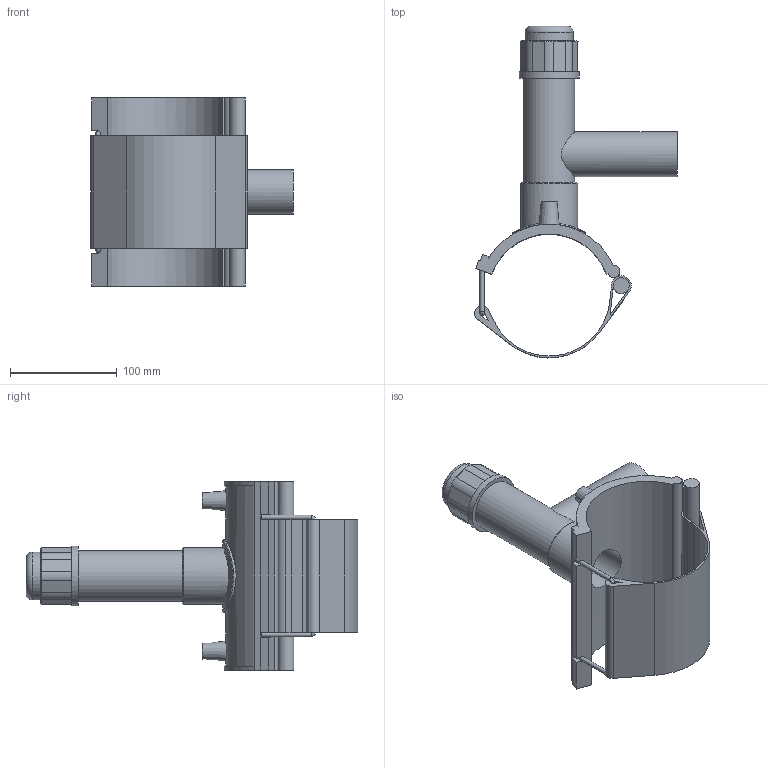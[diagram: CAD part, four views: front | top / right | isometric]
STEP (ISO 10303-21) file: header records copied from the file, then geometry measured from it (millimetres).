
FILE_DESCRIPTION(/* description */ ('PLASSON TAPPING SADDLE 4''''IPS x 1 1/4''''IPS'),/* implementation_level */ '2;1');
FILE_NAME(/* name */ 'C:\Dropbox\KIMPROJECTS-Inventor 2019\99-16-3568-Processing Inch\ASTM ElectroFusion 2021\5913B\5913BB03040013.ipt.stp',/* time_stamp */ '2021-08-30T09:50:26+03:00',/* author */ ('KIM'),/* organization */ (''),/* preprocessor_version */ 'ST-DEVELOPER v17.2',/* originating_system */ 'Autodesk Inventor 2019',/* authorisation */ '');
FILE_SCHEMA (('AUTOMOTIVE_DESIGN { 1 0 10303 214 3 1 1 }'));
Length unit declared in the file: millimetre
Products named in the file (1): 5913BB03040013
Bounding box: 189.47 x 310.62 x 176.02 mm (x, y, z)
Volume: 593884.6 mm3; surface area: 201566 mm2
Topology: 1 solids, 1 shells, 126 faces, 333 edges, 210 vertices
Faces by surface type: plane 69, cylinder 42, cone 11, bspline 3, torus 1
Full cylindrical faces by diameter (mm): 4 x2, 4.108 x2, 10 x2, 14.833 x1, 33.68 x1, 39.296 x1, 42.1 x1, 44.91 x1, 47.717 x1, 53.33 x1, 56.137 x1, 68.46 x1
Entity records: 4565 total; most frequent: CARTESIAN_POINT 1329, DIRECTION 678, ORIENTED_EDGE 664, EDGE_CURVE 332, AXIS2_PLACEMENT_3D 245, VERTEX_POINT 210, LINE 188, VECTOR 188
